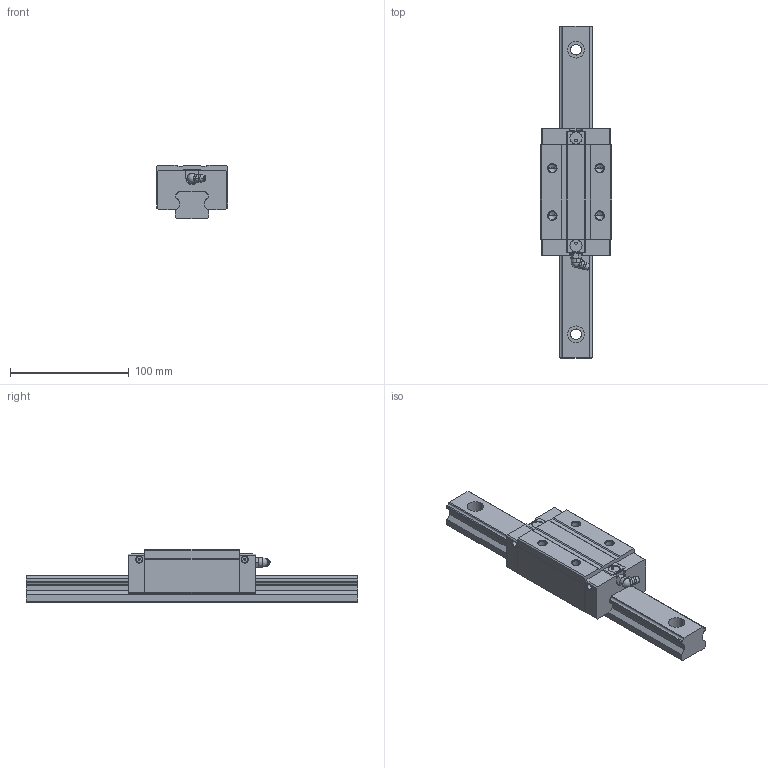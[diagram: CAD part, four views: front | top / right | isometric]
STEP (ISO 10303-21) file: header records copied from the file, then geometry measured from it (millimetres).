
FILE_DESCRIPTION((''),'1');
FILE_NAME(' ',' ',(''),(''),'ACIS Interop R16','Kubotek KeyCreator V6.5.2 (0407)',' ');
FILE_SCHEMA(('CONFIG_CONTROL_DESIGN'));
Length unit declared in the file: millimetre
Products named in the file (3): 1; 2; 3
Bounding box: 60 x 280 x 45 mm (x, y, z)
Volume: 342199.5 mm3; surface area: 63510.1 mm2
Topology: 3 solids, 3 shells, 232 faces, 615 edges, 401 vertices
Faces by surface type: plane 117, cylinder 74, cone 26, torus 10, sphere 3, bspline 2
Entity records: 7478 total; most frequent: CARTESIAN_POINT 1499, DIRECTION 1240, ORIENTED_EDGE 1210, EDGE_CURVE 605, AXIS2_PLACEMENT_3D 442, VERTEX_POINT 401, LINE 356, VECTOR 356
